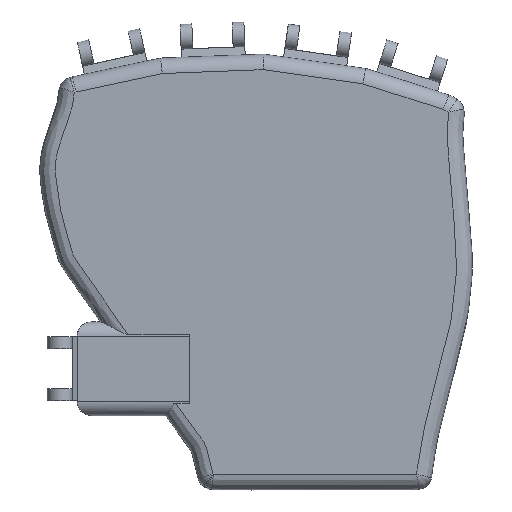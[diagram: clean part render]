
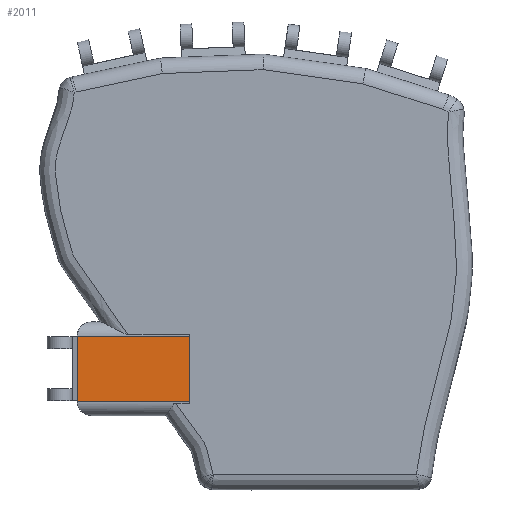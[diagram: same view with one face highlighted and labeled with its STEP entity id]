
A CAD part, left-side view. The second image highlights one B-rep face of the part: STEP entity #2011.
In plain terms, the highlighted planar face has unit normal (-1, 0, 0).
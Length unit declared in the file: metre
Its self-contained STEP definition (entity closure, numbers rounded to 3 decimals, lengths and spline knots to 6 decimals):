
#168=PLANE('',#2165);
#271=LINE('',#13226,#387);
#272=LINE('',#13230,#388);
#273=LINE('',#13232,#389);
#274=LINE('',#13234,#390);
#387=VECTOR('',#2526,1.);
#388=VECTOR('',#2531,1.);
#389=VECTOR('',#2532,1.);
#390=VECTOR('',#2533,1.);
#855=ORIENTED_EDGE('',*,*,#1192,.T.);
#856=ORIENTED_EDGE('',*,*,#1194,.T.);
#857=ORIENTED_EDGE('',*,*,#1195,.F.);
#858=ORIENTED_EDGE('',*,*,#1196,.T.);
#1192=EDGE_CURVE('',#1398,#1397,#271,.T.);
#1194=EDGE_CURVE('',#1397,#1399,#272,.T.);
#1195=EDGE_CURVE('',#1400,#1399,#273,.T.);
#1196=EDGE_CURVE('',#1400,#1398,#274,.F.);
#1397=VERTEX_POINT('',#13225);
#1398=VERTEX_POINT('',#13227);
#1399=VERTEX_POINT('',#13231);
#1400=VERTEX_POINT('',#13233);
#1673=EDGE_LOOP('',(#855,#856,#857,#858));
#1859=FACE_BOUND('',#1673,.T.);
#2011=ADVANCED_FACE('',(#1859),#168,.T.);
#2165=AXIS2_PLACEMENT_3D('',#13229,#2529,#2530);
#2526=DIRECTION('',(0.,0.,1.));
#2529=DIRECTION('',(-1.,0.,0.));
#2530=DIRECTION('',(0.,0.,1.));
#2531=DIRECTION('',(0.,1.,0.));
#2532=DIRECTION('',(0.,0.,1.));
#2533=DIRECTION('',(0.,1.,0.));
#13225=CARTESIAN_POINT('',(-0.000291,0.017,-0.074092));
#13226=CARTESIAN_POINT('',(-0.000291,0.017,-0.081345));
#13227=CARTESIAN_POINT('',(-0.000291,0.017,-0.088597));
#13229=CARTESIAN_POINT('',(-0.000291,0.017,-0.081345));
#13230=CARTESIAN_POINT('',(-0.000291,0.017,-0.074092));
#13231=CARTESIAN_POINT('',(-0.000291,0.042,-0.074092));
#13232=CARTESIAN_POINT('',(-0.000291,0.042,-0.081345));
#13233=CARTESIAN_POINT('',(-0.000291,0.042,-0.088597));
#13234=CARTESIAN_POINT('',(-0.000291,0.017,-0.088597));
